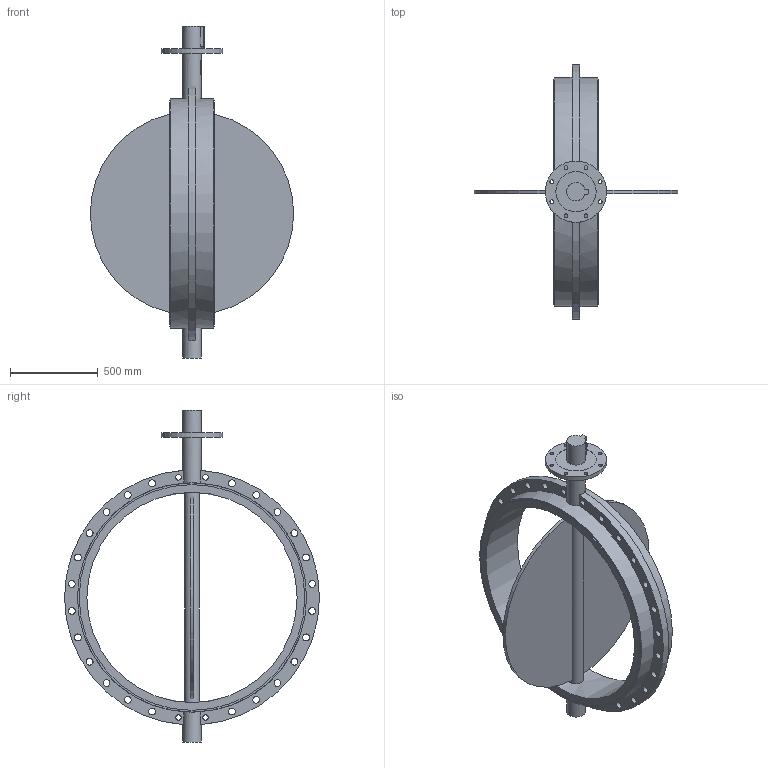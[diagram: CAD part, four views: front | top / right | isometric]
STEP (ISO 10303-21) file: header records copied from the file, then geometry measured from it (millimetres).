
FILE_DESCRIPTION(('STEP AP203'), '1');
FILE_NAME('青蜮铕 017W.YS_DN1200_PN10', '', ('UNSPECIFIED'), ('UNSPECIFIED'), 'ASCON STEP Converter 1.6', 'ASCON Math Kernel', '');
FILE_SCHEMA(('CONFIG_CONTROL_DESIGN'));
Length unit declared in the file: millimetre
Bounding box: 1160.6 x 1455 x 1895 mm (x, y, z)
Volume: 99220649.7 mm3; surface area: 5791373.5 mm2
Topology: 1 solids, 1 shells, 96 faces, 247 edges, 164 vertices
Faces by surface type: cylinder 60, plane 36
Full cylindrical faces by diameter (mm): 22 x8, 31.67 x4, 39 x24, 85 x1, 105 x3, 230 x1, 350 x1, 1200 x1, 1288 x2, 1308 x2
Entity records: 4650 total; most frequent: CARTESIAN_POINT 1445, DIRECTION 498, ORIENTED_EDGE 400, EDGE_LOOP 230, AXIS2_PLACEMENT_3D 219, EDGE_CURVE 200, VERTEX_POINT 164, FACE_BOUND 141
